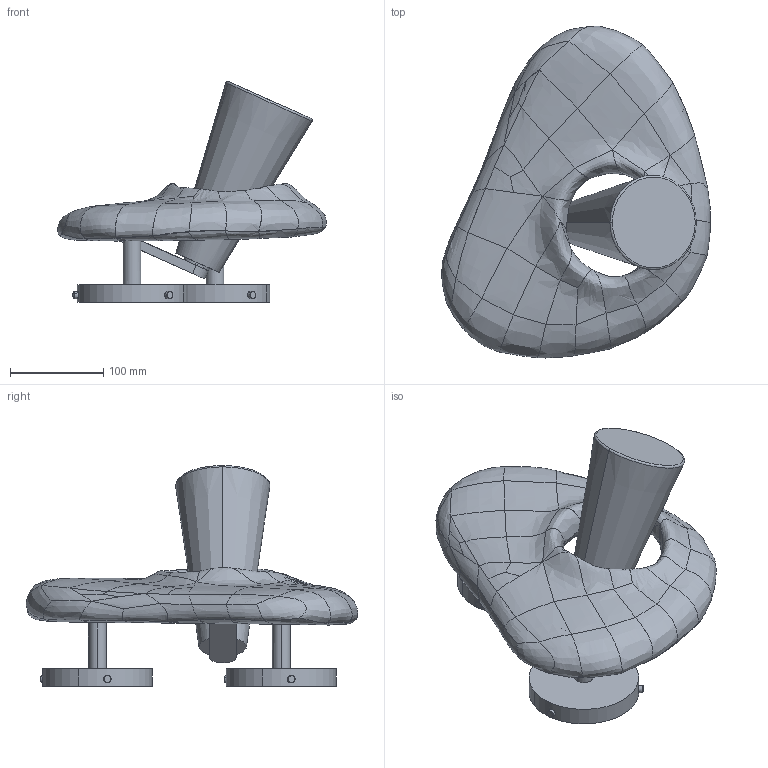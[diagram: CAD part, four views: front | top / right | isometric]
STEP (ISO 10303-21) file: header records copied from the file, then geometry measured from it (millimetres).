
FILE_DESCRIPTION (( 'STEP AP214' ), '1' );
FILE_NAME ('Anna Karlin - Body Sconce.STEP', '2026-05-05T18:44:59', ( '' ), ( '' ), 'SwSTEP 2.0', 'SolidWorks 2023', '' );
FILE_SCHEMA (( 'AUTOMOTIVE_DESIGN' ));
Length unit declared in the file: inch
Products named in the file (11): BodySconce_Post1-V2; SP.GLB.CLLR-2_Long; EAR FORM BODY^Body Sconce Cast Assembly_Body Sconce V2; EAR.GLASS; 95488A152_Brass Low-Profile Knurled-Head Thumb Screw_No Threads; Body Sconce Cast Assembly^Body Sconce V2; Bracket_Cast_Sconce-V2; POST2^Body Sconce Cast Assembly_Body Sconce V2; Anna Karlin - Body Sconce; ARM^Body Sconce Cast Assembly_Body Sconce V2; Backplate_Cast_Sconce-V2
Assembly tree (17 placements, depth 3):
  Anna Karlin - Body Sconce
    EAR.GLASS
    SP.GLB.CLLR-2_Long
    Body Sconce Cast Assembly^Body Sconce V2
      EAR FORM BODY^Body Sconce Cast Assembly_Body Sconce V2
      BodySconce_Post1-V2
      POST2^Body Sconce Cast Assembly_Body Sconce V2
      ARM^Body Sconce Cast Assembly_Body Sconce V2
      95488A152_Brass Low-Profile Knurled-Head Thumb Screw_No Threads  x6
      Backplate_Cast_Sconce-V2  x2
      Bracket_Cast_Sconce-V2  x2
Bounding box: 288.02 x 355.41 x 236.51 mm (x, y, z)
Volume: 548111.1 mm3; surface area: 579544.8 mm2
Topology: 16 solids, 16 shells, 518 faces, 1174 edges, 701 vertices
Faces by surface type: bspline 257, cylinder 153, plane 54, cone 50, torus 4
Entity records: 407286 total; most frequent: CARTESIAN_POINT 399691, ORIENTED_EDGE 1904, EDGE_CURVE 952, DIRECTION 739, B_SPLINE_CURVE_WITH_KNOTS 626, VERTEX_POINT 555, EDGE_LOOP 457, ADVANCED_FACE 415
